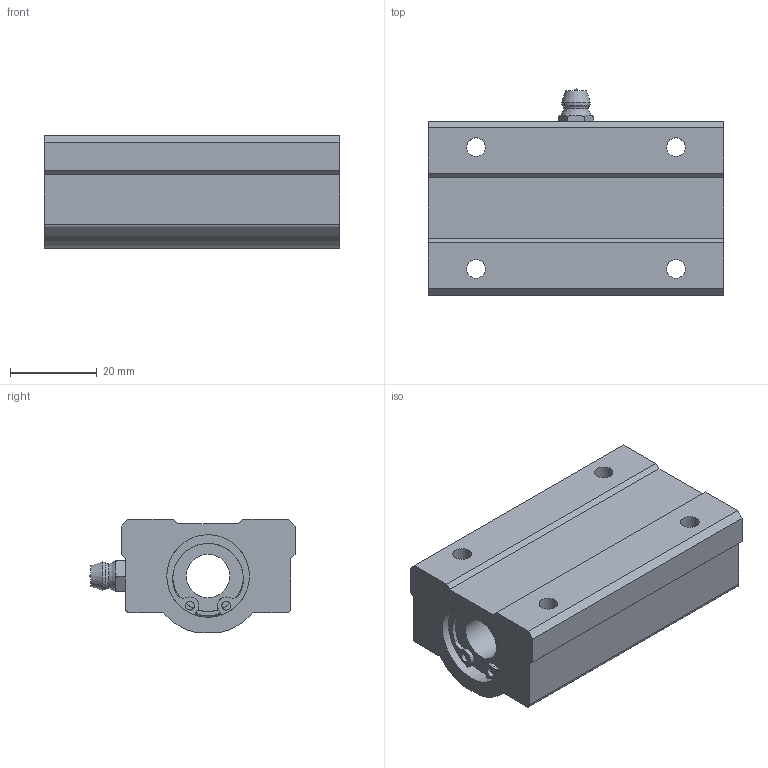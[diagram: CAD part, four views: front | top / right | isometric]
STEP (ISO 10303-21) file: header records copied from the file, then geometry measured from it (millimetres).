
FILE_DESCRIPTION((''),'2;1');
FILE_NAME('D:\製品 (図面)\カタログ用3D\リニアベアリング関連\STEP形式\LHW-B\LHW10B.stp','2010-05-21T10:45:26',('Tsuchiya'),(''),'Autodesk Inventor 10','Autodesk Inventor 10','');
FILE_SCHEMA(('AUTOMOTIVE_DESIGN { 1 0 10303 214 1 1 1 1 }'));
Length unit declared in the file: millimetre
Products named in the file (1): LHW10B
Bounding box: 68 x 47.4 x 26 mm (x, y, z)
Volume: 52442.8 mm3; surface area: 15471.5 mm2
Topology: 1 solids, 7 shells, 122 faces, 305 edges, 193 vertices
Faces by surface type: plane 46, bspline 40, cylinder 25, cone 7, torus 2, sphere 2
Full cylindrical faces by diameter (mm): 2 x2, 10 x2, 16.3 x2, 18 x2, 19 x8
Entity records: 3689 total; most frequent: CARTESIAN_POINT 1053, DIRECTION 538, ORIENTED_EDGE 488, EDGE_CURVE 244, AXIS2_PLACEMENT_3D 223, EDGE_LOOP 192, VERTEX_POINT 172, CIRCLE 140
